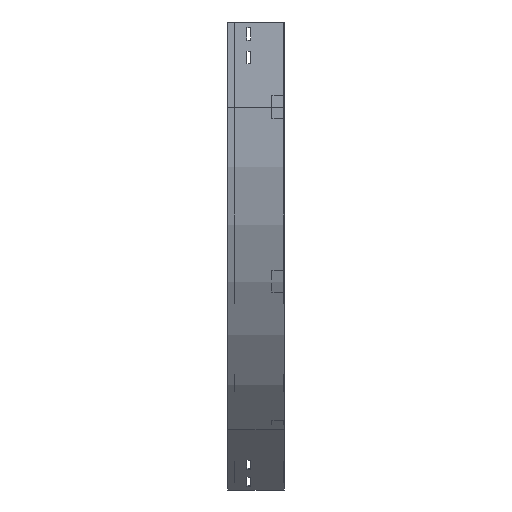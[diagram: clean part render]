
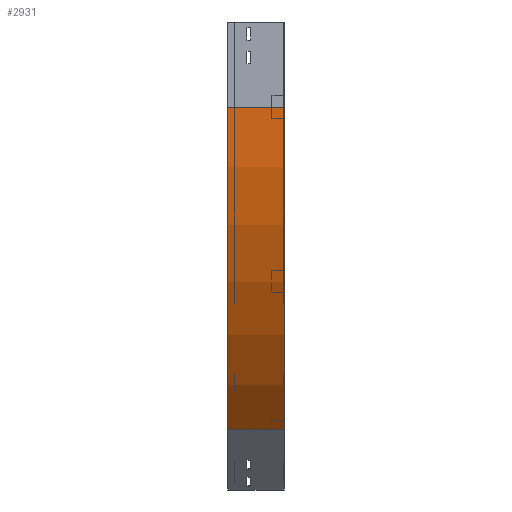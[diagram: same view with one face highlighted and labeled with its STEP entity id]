
A CAD part, left-side view. The second image highlights one B-rep face of the part: STEP entity #2931.
In plain terms, the highlighted cylindrical face has radius 800 mm (diameter 1600 mm), a partial arc.
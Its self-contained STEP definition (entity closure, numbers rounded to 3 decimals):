
#137 = LINE ( 'NONE', #1084, #1982 ) ;
#150 = CIRCLE ( 'NONE', #1216, 800. ) ;
#159 = CARTESIAN_POINT ( 'NONE',  ( 0., 100., -150. ) ) ;
#177 = DIRECTION ( 'NONE',  ( -1., 0., 0. ) ) ;
#343 = EDGE_CURVE ( 'NONE', #1937, #852, #3512, .T. ) ;
#427 = VERTEX_POINT ( 'NONE', #2031 ) ;
#560 = CARTESIAN_POINT ( 'NONE',  ( 0., 0., -150. ) ) ;
#704 = ORIENTED_EDGE ( 'NONE', *, *, #343, .F. ) ;
#759 = CARTESIAN_POINT ( 'NONE',  ( 800., 0., -150. ) ) ;
#852 = VERTEX_POINT ( 'NONE', #3806 ) ;
#855 = DIRECTION ( 'NONE',  ( 0., 0., -1. ) ) ;
#873 = DIRECTION ( 'NONE',  ( 0., -1., 0. ) ) ;
#1026 = CARTESIAN_POINT ( 'NONE',  ( 800., 100., -150. ) ) ;
#1036 = VERTEX_POINT ( 'NONE', #159 ) ;
#1039 = DIRECTION ( 'NONE',  ( 0., -1., 0. ) ) ;
#1084 = CARTESIAN_POINT ( 'NONE',  ( 234.315, 0., -715.685 ) ) ;
#1216 = AXIS2_PLACEMENT_3D ( 'NONE', #1026, #2237, #177 ) ;
#1420 = DIRECTION ( 'NONE',  ( 0., -1., 0. ) ) ;
#1700 = EDGE_CURVE ( 'NONE', #1036, #427, #150, .T. ) ;
#1705 = ORIENTED_EDGE ( 'NONE', *, *, #1700, .T. ) ;
#1752 = EDGE_CURVE ( 'NONE', #427, #852, #137, .T. ) ;
#1753 = EDGE_LOOP ( 'NONE', ( #704, #1779, #1705, #2428 ) ) ;
#1770 = CYLINDRICAL_SURFACE ( 'NONE', #2081, 800. ) ;
#1779 = ORIENTED_EDGE ( 'NONE', *, *, #2536, .F. ) ;
#1937 = VERTEX_POINT ( 'NONE', #560 ) ;
#1957 = DIRECTION ( 'NONE',  ( 0., -1., 0. ) ) ;
#1971 = DIRECTION ( 'NONE',  ( -1., 0., 0. ) ) ;
#1982 = VECTOR ( 'NONE', #1957, 1000. ) ;
#2004 = FACE_OUTER_BOUND ( 'NONE', #1753, .T. ) ;
#2031 = CARTESIAN_POINT ( 'NONE',  ( 234.315, 100., -715.685 ) ) ;
#2081 = AXIS2_PLACEMENT_3D ( 'NONE', #3250, #873, #855 ) ;
#2237 = DIRECTION ( 'NONE',  ( 0., -1., 0. ) ) ;
#2428 = ORIENTED_EDGE ( 'NONE', *, *, #1752, .T. ) ;
#2536 = EDGE_CURVE ( 'NONE', #1036, #1937, #3457, .T. ) ;
#2569 = VECTOR ( 'NONE', #1420, 1000. ) ;
#2905 = CARTESIAN_POINT ( 'NONE',  ( 0., 0., -150. ) ) ;
#2931 = ADVANCED_FACE ( 'NONE', ( #2004 ), #1770, .T. ) ;
#3083 = AXIS2_PLACEMENT_3D ( 'NONE', #759, #1039, #1971 ) ;
#3250 = CARTESIAN_POINT ( 'NONE',  ( 800., 0., -150. ) ) ;
#3457 = LINE ( 'NONE', #2905, #2569 ) ;
#3512 = CIRCLE ( 'NONE', #3083, 800. ) ;
#3806 = CARTESIAN_POINT ( 'NONE',  ( 234.315, 0., -715.685 ) ) ;
